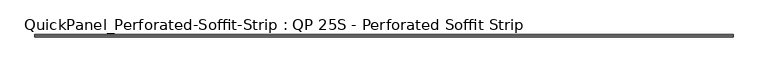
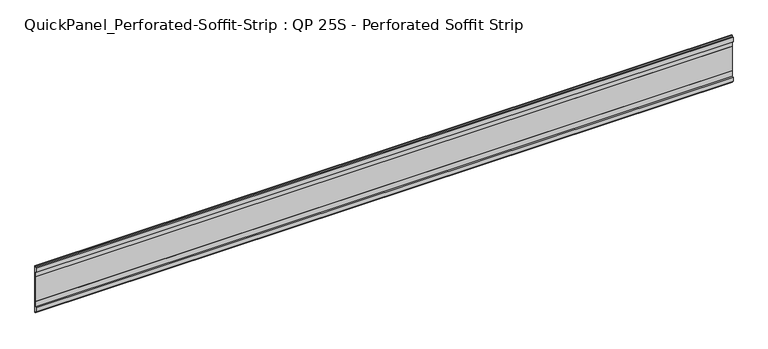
"""IFC4 building model written with IfcOpenShell, lengths in millimetres: plate geometry, QuickPanel_Perforated-Soffit-Strip : QP 25S - Perforated Soffit Strip."""

from ifc_helpers import new_model, si_unit, frame, origin, place, context, project, spatial, polyline, outline, extrude, source, transform, mapped, element, save


def quickpanel_perforated_soffit_strip_qp_25s_perforated_soffit_1afd152b(model_context):
    return source(origin(), model_context, "Body", "SweptSolid", [
        extrude(outline(polyline([(1.2999974, 0.0), (0.0, 0.0), (0.0, 3.2260821), (-2.7005026, 3.2260821), (-2.7005026, 10.95756), (0.0, 10.95756), (0.0, 20.8066818), (1.2999974, 20.8066818), (1.2999974, 0.0)])), frame((-609.6, 0.0, 0.0), z_axis=(1.0, 0.0, 0.0), x_axis=(0.0, 1.0, 0.0)), (0.0, 0.0, 1.0), 1219.2),
        extrude(outline(polyline([(1.2999974, 66.5058182), (0.0, 66.5058182), (0.0, 76.35494), (-2.7005026, 76.35494), (-2.7005026, 84.0864179), (0.0, 84.0864179), (0.0, 86.4467294), (1.2999974, 86.4467294), (1.2999974, 66.5058182)])), frame((-609.6, 0.0, 0.0), z_axis=(1.0, 0.0, 0.0), x_axis=(0.0, 1.0, 0.0)), (0.0, 0.0, 1.0), 1219.2),
        extrude(outline(polyline([(-609.6, 0.0), (-609.6, 1.2999974), (609.6, 1.2999974), (609.6, 0.0), (-609.6, 0.0)])), frame((0.0, 0.0, 20.8066818), z_axis=(0.0, 0.0, 1.0), x_axis=(1.0, 0.0, 0.0)), (0.0, 0.0, 1.0), 45.6991364),
    ])


if __name__ == "__main__":
    model = new_model("IFC4")
    model_context = context("Model", 3, world=origin())
    ifc_project = project(units=[si_unit("LENGTHUNIT", "METRE", prefix="MILLI")], contexts=[model_context])
    site = spatial("IfcSite", under=ifc_project)
    building = spatial("IfcBuilding", under=site)
    placement = place(None, origin())
    quickpanel_perforated_soffit_strip_qp_25s_perforated_soffit_shape = quickpanel_perforated_soffit_strip_qp_25s_perforated_soffit_1afd152b(model_context)
    element("IfcPlate", 1, ObjectType="QuickPanel_Perforated-Soffit-Strip : QP 25S - Perforated Soffit Strip", at=placement, inside=building, context=model_context, shape_type="MappedRepresentation", body=[
        mapped(quickpanel_perforated_soffit_strip_qp_25s_perforated_soffit_shape, transform((0.0, 0.0, 0.0), x_axis=(1.0, 0.0, 0.0), y_axis=(0.0, 1.0, 0.0), z_axis=(0.0, 0.0, 1.0))),
    ])
    save(model, "model.ifc")
